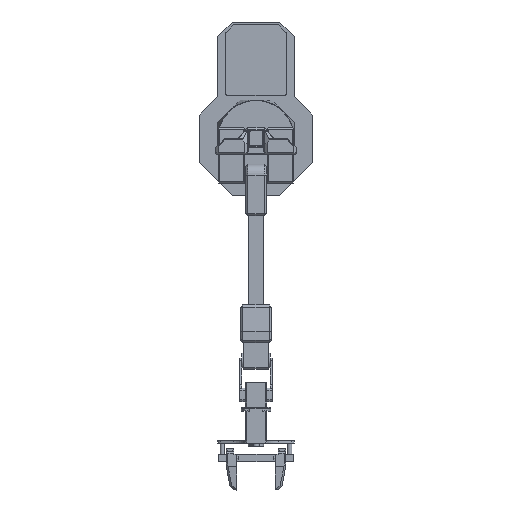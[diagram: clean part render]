
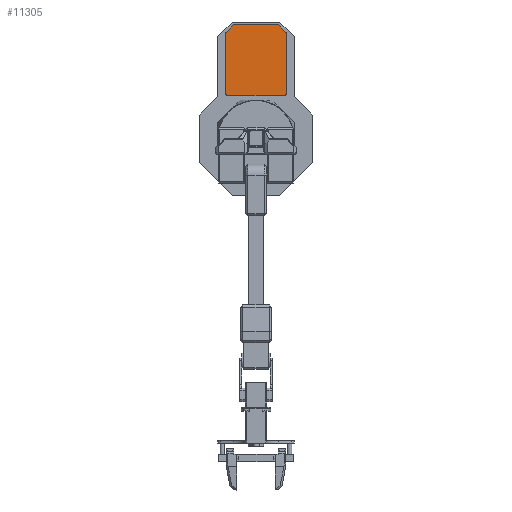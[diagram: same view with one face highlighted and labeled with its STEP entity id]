
A CAD part, top view. The second image highlights one B-rep face of the part: STEP entity #11305.
In plain terms, the highlighted planar face has unit normal (0, 0, 1).
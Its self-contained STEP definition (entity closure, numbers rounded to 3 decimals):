
#274=PLANE('',#12082);
#763=FACE_OUTER_BOUND('',#1435,.T.);
#1435=EDGE_LOOP('',(#7823,#7824,#7825,#7826,#7827,#7828,#7829,#7830,#7831,
#7832,#7833,#7834));
#2137=LINE('',#16392,#3418);
#2141=LINE('',#16404,#3422);
#2145=LINE('',#16416,#3426);
#2149=LINE('',#16428,#3430);
#2153=LINE('',#16440,#3434);
#2156=LINE('',#16449,#3437);
#3418=VECTOR('',#13085,10.);
#3422=VECTOR('',#13097,10.);
#3426=VECTOR('',#13109,10.);
#3430=VECTOR('',#13121,10.);
#3434=VECTOR('',#13133,10.);
#3437=VECTOR('',#13144,10.);
#4696=CIRCLE('',#12060,3.);
#4698=CIRCLE('',#12064,3.);
#4700=CIRCLE('',#12068,3.);
#4702=CIRCLE('',#12072,3.);
#4704=CIRCLE('',#12076,2.5);
#4706=CIRCLE('',#12080,2.5);
#5013=VERTEX_POINT('',#16382);
#5014=VERTEX_POINT('',#16384);
#5016=VERTEX_POINT('',#16390);
#5018=VERTEX_POINT('',#16396);
#5020=VERTEX_POINT('',#16402);
#5022=VERTEX_POINT('',#16408);
#5024=VERTEX_POINT('',#16414);
#5026=VERTEX_POINT('',#16420);
#5028=VERTEX_POINT('',#16426);
#5030=VERTEX_POINT('',#16432);
#5032=VERTEX_POINT('',#16438);
#5034=VERTEX_POINT('',#16444);
#6084=EDGE_CURVE('',#5014,#5013,#4696,.T.);
#6088=EDGE_CURVE('',#5013,#5016,#2137,.T.);
#6091=EDGE_CURVE('',#5016,#5018,#4698,.T.);
#6094=EDGE_CURVE('',#5018,#5020,#2141,.T.);
#6097=EDGE_CURVE('',#5020,#5022,#4700,.T.);
#6100=EDGE_CURVE('',#5022,#5024,#2145,.T.);
#6103=EDGE_CURVE('',#5024,#5026,#4702,.T.);
#6106=EDGE_CURVE('',#5026,#5028,#2149,.T.);
#6109=EDGE_CURVE('',#5028,#5030,#4704,.T.);
#6112=EDGE_CURVE('',#5030,#5032,#2153,.T.);
#6115=EDGE_CURVE('',#5032,#5034,#4706,.T.);
#6117=EDGE_CURVE('',#5034,#5014,#2156,.T.);
#7823=ORIENTED_EDGE('',*,*,#6097,.T.);
#7824=ORIENTED_EDGE('',*,*,#6100,.T.);
#7825=ORIENTED_EDGE('',*,*,#6103,.T.);
#7826=ORIENTED_EDGE('',*,*,#6106,.T.);
#7827=ORIENTED_EDGE('',*,*,#6109,.T.);
#7828=ORIENTED_EDGE('',*,*,#6112,.T.);
#7829=ORIENTED_EDGE('',*,*,#6115,.T.);
#7830=ORIENTED_EDGE('',*,*,#6117,.T.);
#7831=ORIENTED_EDGE('',*,*,#6084,.T.);
#7832=ORIENTED_EDGE('',*,*,#6088,.T.);
#7833=ORIENTED_EDGE('',*,*,#6091,.T.);
#7834=ORIENTED_EDGE('',*,*,#6094,.T.);
#11305=ADVANCED_FACE('',(#763),#274,.T.);
#12060=AXIS2_PLACEMENT_3D('',#16385,#13078,#13079);
#12064=AXIS2_PLACEMENT_3D('',#16398,#13091,#13092);
#12068=AXIS2_PLACEMENT_3D('',#16410,#13103,#13104);
#12072=AXIS2_PLACEMENT_3D('',#16422,#13115,#13116);
#12076=AXIS2_PLACEMENT_3D('',#16434,#13127,#13128);
#12080=AXIS2_PLACEMENT_3D('',#16446,#13139,#13140);
#12082=AXIS2_PLACEMENT_3D('',#16450,#13145,#13146);
#13078=DIRECTION('center_axis',(0.,0.,
1.));
#13079=DIRECTION('ref_axis',(-0.707,0.707,0.));
#13085=DIRECTION('',(0.,-1.,0.));
#13091=DIRECTION('center_axis',(0.,0.,
1.));
#13092=DIRECTION('ref_axis',(-1.,0.,0.));
#13097=DIRECTION('',(1.,0.,0.));
#13103=DIRECTION('center_axis',(0.,0.,
1.));
#13104=DIRECTION('ref_axis',(0.,-1.,0.));
#13109=DIRECTION('',(0.,1.,0.));
#13115=DIRECTION('center_axis',(0.,0.,
1.));
#13116=DIRECTION('ref_axis',(1.,0.,0.));
#13121=DIRECTION('',(-0.707,0.707,0.));
#13127=DIRECTION('center_axis',(0.,0.,
1.));
#13128=DIRECTION('ref_axis',(0.707,0.707,0.));
#13133=DIRECTION('',(-1.,-0.001,0.));
#13139=DIRECTION('center_axis',(0.,0.,
1.));
#13140=DIRECTION('ref_axis',(-0.001,1.,0.));
#13144=DIRECTION('',(-0.707,-0.707,0.));
#13145=DIRECTION('center_axis',(0.,0.,
1.));
#13146=DIRECTION('ref_axis',(-1.,0.,0.));
#16382=CARTESIAN_POINT('',(-41.,140.757,37.));
#16384=CARTESIAN_POINT('',(-40.121,142.879,37.));
#16385=CARTESIAN_POINT('Origin',(-38.,140.757,37.));
#16390=CARTESIAN_POINT('',(-41.,61.,37.));
#16392=CARTESIAN_POINT('',(-41.,140.757,37.));
#16396=CARTESIAN_POINT('',(-38.,58.,37.));
#16398=CARTESIAN_POINT('Origin',(-38.,61.,37.));
#16402=CARTESIAN_POINT('',(38.,58.,37.));
#16404=CARTESIAN_POINT('',(-38.,58.,37.));
#16408=CARTESIAN_POINT('',(41.,61.,37.));
#16410=CARTESIAN_POINT('Origin',(38.,61.,37.));
#16414=CARTESIAN_POINT('',(41.,140.757,37.));
#16416=CARTESIAN_POINT('',(41.,61.,37.));
#16420=CARTESIAN_POINT('',(40.121,142.879,37.));
#16422=CARTESIAN_POINT('Origin',(38.,140.757,37.));
#16426=CARTESIAN_POINT('',(29.673,153.327,37.));
#16428=CARTESIAN_POINT('',(40.121,142.879,37.));
#16432=CARTESIAN_POINT('',(27.904,154.059,37.));
#16434=CARTESIAN_POINT('Origin',(27.906,151.559,37.));
#16438=CARTESIAN_POINT('',(-27.943,154.023,37.));
#16440=CARTESIAN_POINT('',(27.904,154.059,37.));
#16444=CARTESIAN_POINT('',(-29.71,153.29,37.));
#16446=CARTESIAN_POINT('Origin',(-27.942,151.523,37.));
#16449=CARTESIAN_POINT('',(-29.71,153.29,37.));
#16450=CARTESIAN_POINT('Origin',(0.,106.029,
37.));
